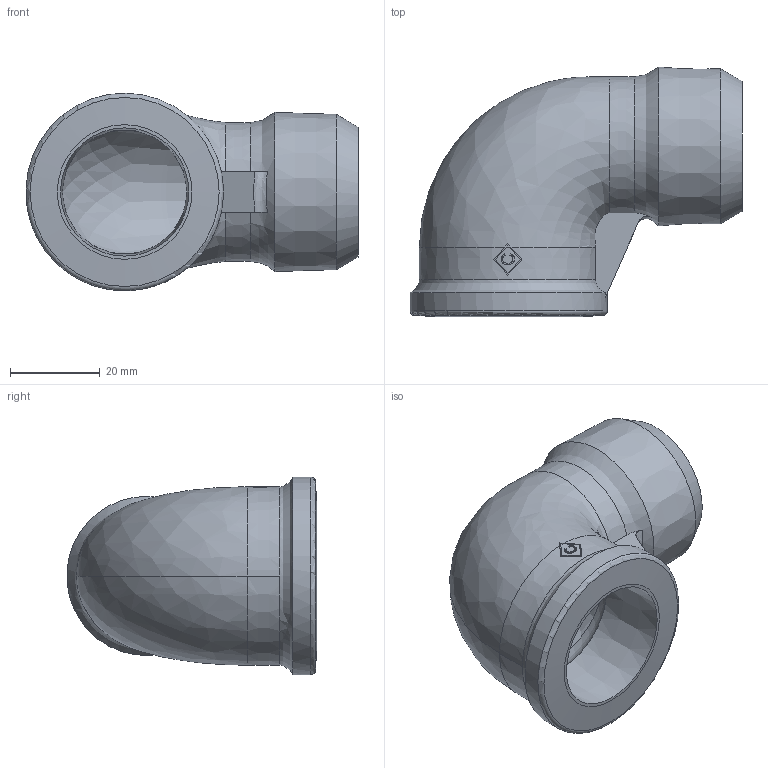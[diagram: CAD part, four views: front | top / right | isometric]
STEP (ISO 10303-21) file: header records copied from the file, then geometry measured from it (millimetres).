
FILE_DESCRIPTION((''),'2;1');
FILE_NAME('P:\Fastrack\53909_CRANE\Crane\Fig.152 M and F Elbow\New 1.00 inch\152-1.00.stp','2009-09-15T16:57:04',('btaylor'),(''),'Autodesk Inventor 2008','Autodesk Inventor 2008','');
FILE_SCHEMA(('AUTOMOTIVE_DESIGN { 1 0 10303 214 1 1 1 1 }'));
Length unit declared in the file: millimetre
Products named in the file (1): 152-1.00
Bounding box: 73.98 x 55.67 x 44 mm (x, y, z)
Volume: 36447.4 mm3; surface area: 17525.4 mm2
Topology: 1 solids, 1 shells, 46 faces, 160 edges, 116 vertices
Faces by surface type: bspline 26, plane 14, cone 4, torus 1, cylinder 1
Full cylindrical faces by diameter (mm): 44 x1
Entity records: 6291 total; most frequent: CARTESIAN_POINT 5134, ORIENTED_EDGE 306, EDGE_CURVE 153, DIRECTION 118, VERTEX_POINT 115, B_SPLINE_CURVE_WITH_KNOTS 104, EDGE_LOOP 54, AXIS2_PLACEMENT_3D 48
